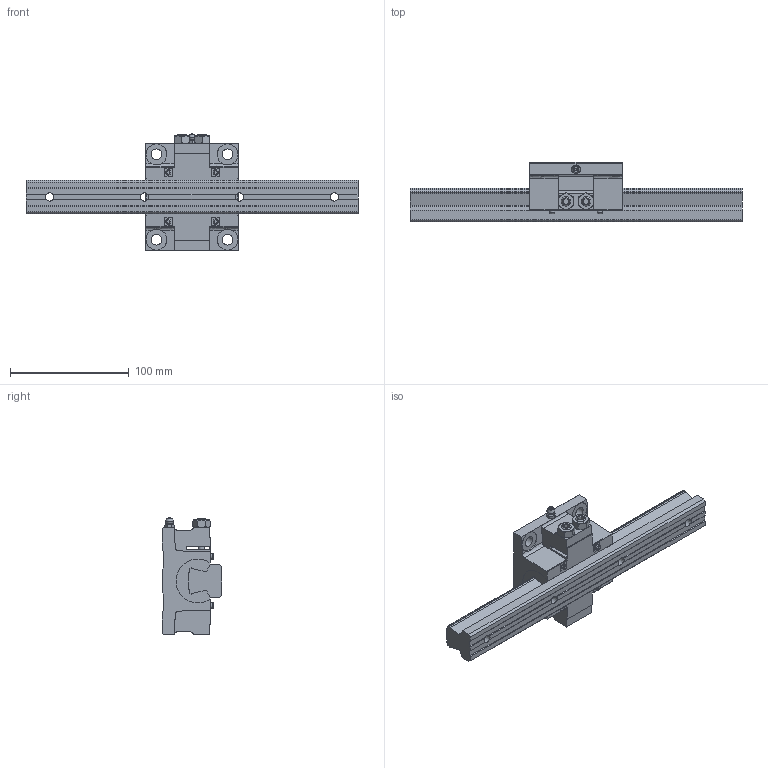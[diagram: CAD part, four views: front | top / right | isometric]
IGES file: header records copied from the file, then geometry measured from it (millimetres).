
Start section: Data from Parasolid IGES Translator 26.0.171, Copyright(c) 2006 Siemens PLM Software. All Rights Reserved.
Global section: file name: NSR25TBC1-280L_G20_0_A-M6F_101_0_0_0.igs; native system: By Siemens PLM Incorporated; preprocessor: XPlus GENERIC/IGES 26.0.171; author: Noname; organization: Noname; date: 20240521.121223; units: millimetre
Bounding box: 280 x 50 x 98.41 mm (x, y, z)
Surface area: 67193.6 mm2 (no closed solid volume)
Topology: 0 solids, 0 shells, 258 faces, 1409 edges, 1373 vertices
Faces by surface type: extrusion 159, revolution 99
